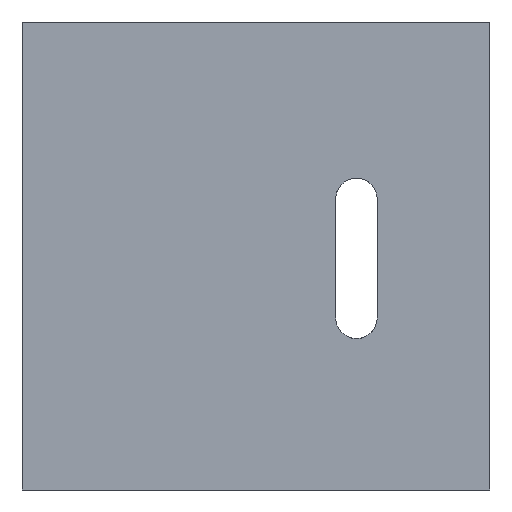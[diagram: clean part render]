
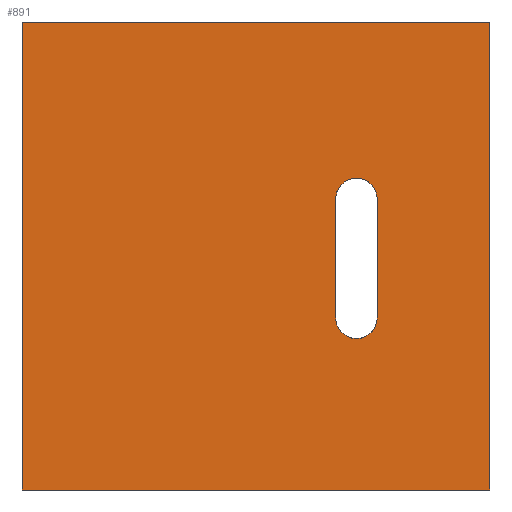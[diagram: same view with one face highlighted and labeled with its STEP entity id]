
A CAD part, front view. The second image highlights one B-rep face of the part: STEP entity #891.
In plain terms, the highlighted planar face has unit normal (0, -1, 0).
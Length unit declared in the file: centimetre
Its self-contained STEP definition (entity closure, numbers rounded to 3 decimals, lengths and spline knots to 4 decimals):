
#1 = CARTESIAN_POINT ( 'NONE',  ( 1000., 0., 0. ) ) ;
#2 = VECTOR ( 'NONE', #312, 100. ) ;
#3 = ORIENTED_EDGE ( 'NONE', *, *, #334, .F. ) ;
#11 = VERTEX_POINT ( 'NONE', #379 ) ;
#25 = LINE ( 'NONE', #977, #61 ) ;
#61 = VECTOR ( 'NONE', #496, 100. ) ;
#82 = DIRECTION ( 'NONE',  ( 0., 0., -1. ) ) ;
#85 = VERTEX_POINT ( 'NONE', #409 ) ;
#125 = FACE_BOUND ( 'NONE', #738, .T. ) ;
#142 = LINE ( 'NONE', #236, #2 ) ;
#162 = EDGE_CURVE ( 'NONE', #195, #1208, #640, .T. ) ;
#189 = ORIENTED_EDGE ( 'NONE', *, *, #903, .F. ) ;
#190 = ORIENTED_EDGE ( 'NONE', *, *, #273, .F. ) ;
#195 = VERTEX_POINT ( 'NONE', #271 ) ;
#222 = DIRECTION ( 'NONE',  ( 0., 0., 1. ) ) ;
#231 = ORIENTED_EDGE ( 'NONE', *, *, #1071, .F. ) ;
#236 = CARTESIAN_POINT ( 'NONE',  ( 0., 0., 1000. ) ) ;
#262 = CARTESIAN_POINT ( 'NONE',  ( 0., 0., 1000. ) ) ;
#271 = CARTESIAN_POINT ( 'NONE',  ( 0., 0., 0. ) ) ;
#273 = EDGE_CURVE ( 'NONE', #1195, #780, #796, .T. ) ;
#277 = CARTESIAN_POINT ( 'NONE',  ( 1000., 0., 1000. ) ) ;
#283 = LINE ( 'NONE', #277, #975 ) ;
#300 = VECTOR ( 'NONE', #715, 100. ) ;
#301 = DIRECTION ( 'NONE',  ( 0., -1., 0. ) ) ;
#312 = DIRECTION ( 'NONE',  ( 1., 0., 0. ) ) ;
#316 = EDGE_CURVE ( 'NONE', #780, #665, #779, .T. ) ;
#328 = PLANE ( 'NONE',  #753 ) ;
#334 = EDGE_CURVE ( 'NONE', #665, #932, #1186, .T. ) ;
#379 = CARTESIAN_POINT ( 'NONE',  ( 758.9902, 0., 622.0304 ) ) ;
#407 = AXIS2_PLACEMENT_3D ( 'NONE', #960, #301, #1161 ) ;
#409 = CARTESIAN_POINT ( 'NONE',  ( 1000., 0., 1000. ) ) ;
#433 = CARTESIAN_POINT ( 'NONE',  ( 0., 0., 1000. ) ) ;
#444 = EDGE_CURVE ( 'NONE', #85, #1208, #283, .T. ) ;
#453 = ORIENTED_EDGE ( 'NONE', *, *, #615, .F. ) ;
#479 = AXIS2_PLACEMENT_3D ( 'NONE', #1012, #1000, #535 ) ;
#496 = DIRECTION ( 'NONE',  ( 0., 0., 1. ) ) ;
#535 = DIRECTION ( 'NONE',  ( 0., 0., 1. ) ) ;
#542 = ORIENTED_EDGE ( 'NONE', *, *, #1042, .T. ) ;
#569 = EDGE_LOOP ( 'NONE', ( #1130, #1039, #189, #542 ) ) ;
#614 = CARTESIAN_POINT ( 'NONE',  ( 714.6809, 0., 367.7354 ) ) ;
#615 = EDGE_CURVE ( 'NONE', #932, #11, #25, .T. ) ;
#640 = LINE ( 'NONE', #1181, #300 ) ;
#665 = VERTEX_POINT ( 'NONE', #888 ) ;
#683 = CARTESIAN_POINT ( 'NONE',  ( 670.3716, 0., 367.7354 ) ) ;
#697 = DIRECTION ( 'NONE',  ( 0., -1., 0. ) ) ;
#715 = DIRECTION ( 'NONE',  ( 1., 0., 0. ) ) ;
#738 = EDGE_LOOP ( 'NONE', ( #453, #3, #771, #190, #231 ) ) ;
#739 = CARTESIAN_POINT ( 'NONE',  ( 670.3716, 0., 622.0304 ) ) ;
#753 = AXIS2_PLACEMENT_3D ( 'NONE', #433, #1083, #970 ) ;
#771 = ORIENTED_EDGE ( 'NONE', *, *, #316, .F. ) ;
#776 = VECTOR ( 'NONE', #1005, 100. ) ;
#779 = CIRCLE ( 'NONE', #407, 44.3093 ) ;
#780 = VERTEX_POINT ( 'NONE', #969 ) ;
#796 = LINE ( 'NONE', #683, #879 ) ;
#817 = AXIS2_PLACEMENT_3D ( 'NONE', #614, #697, #222 ) ;
#854 = CIRCLE ( 'NONE', #479, 44.3093 ) ;
#875 = CARTESIAN_POINT ( 'NONE',  ( 0., 0., 1000. ) ) ;
#879 = VECTOR ( 'NONE', #1061, 100. ) ;
#888 = CARTESIAN_POINT ( 'NONE',  ( 714.6809, 0., 323.426 ) ) ;
#891 = ADVANCED_FACE ( 'NONE', ( #125, #1159 ), #328, .F. ) ;
#903 = EDGE_CURVE ( 'NONE', #917, #85, #142, .T. ) ;
#917 = VERTEX_POINT ( 'NONE', #875 ) ;
#932 = VERTEX_POINT ( 'NONE', #1066 ) ;
#960 = CARTESIAN_POINT ( 'NONE',  ( 714.6809, 0., 367.7354 ) ) ;
#969 = CARTESIAN_POINT ( 'NONE',  ( 670.3716, 0., 367.7354 ) ) ;
#970 = DIRECTION ( 'NONE',  ( 0., 0., 1. ) ) ;
#975 = VECTOR ( 'NONE', #82, 100. ) ;
#977 = CARTESIAN_POINT ( 'NONE',  ( 758.9902, 0., 622.0304 ) ) ;
#1000 = DIRECTION ( 'NONE',  ( 0., -1., 0. ) ) ;
#1005 = DIRECTION ( 'NONE',  ( 0., 0., -1. ) ) ;
#1012 = CARTESIAN_POINT ( 'NONE',  ( 714.6809, 0., 622.0304 ) ) ;
#1039 = ORIENTED_EDGE ( 'NONE', *, *, #444, .F. ) ;
#1042 = EDGE_CURVE ( 'NONE', #917, #195, #1111, .T. ) ;
#1061 = DIRECTION ( 'NONE',  ( 0., 0., -1. ) ) ;
#1066 = CARTESIAN_POINT ( 'NONE',  ( 758.9902, 0., 367.7354 ) ) ;
#1071 = EDGE_CURVE ( 'NONE', #11, #1195, #854, .T. ) ;
#1083 = DIRECTION ( 'NONE',  ( 0., 1., 0. ) ) ;
#1111 = LINE ( 'NONE', #262, #776 ) ;
#1130 = ORIENTED_EDGE ( 'NONE', *, *, #162, .T. ) ;
#1159 = FACE_OUTER_BOUND ( 'NONE', #569, .T. ) ;
#1161 = DIRECTION ( 'NONE',  ( 0., 0., 1. ) ) ;
#1181 = CARTESIAN_POINT ( 'NONE',  ( 0., 0., 0. ) ) ;
#1186 = CIRCLE ( 'NONE', #817, 44.3093 ) ;
#1195 = VERTEX_POINT ( 'NONE', #739 ) ;
#1208 = VERTEX_POINT ( 'NONE', #1 ) ;
